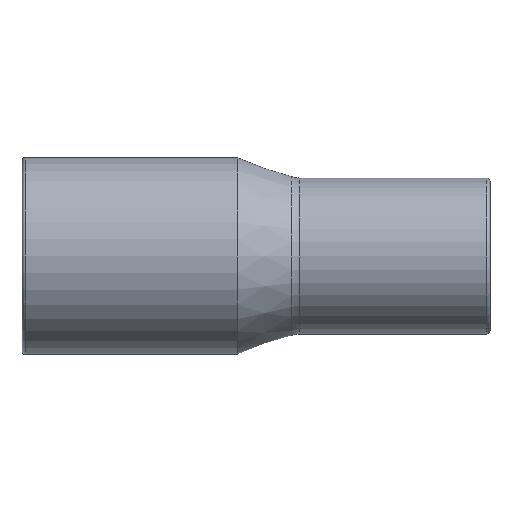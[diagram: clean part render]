
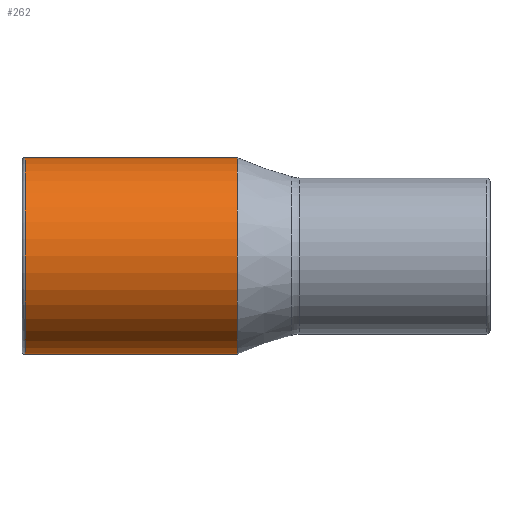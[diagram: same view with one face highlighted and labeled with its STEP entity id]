
A CAD part, front view. The second image highlights one B-rep face of the part: STEP entity #262.
In plain terms, the highlighted cylindrical face has radius 31.5 mm (diameter 63 mm), a full revolution.
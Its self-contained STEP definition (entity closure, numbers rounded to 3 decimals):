
#20=CYLINDRICAL_SURFACE('',#307,31.5);
#44=FACE_BOUND('',#109,.T.);
#67=FACE_OUTER_BOUND('',#108,.T.);
#108=EDGE_LOOP('',(#223));
#109=EDGE_LOOP('',(#224));
#136=CIRCLE('',#306,31.5);
#137=CIRCLE('',#308,31.5);
#159=VERTEX_POINT('',#465);
#160=VERTEX_POINT('',#468);
#182=EDGE_CURVE('',#159,#159,#136,.T.);
#183=EDGE_CURVE('',#160,#160,#137,.T.);
#223=ORIENTED_EDGE('',*,*,#183,.F.);
#224=ORIENTED_EDGE('',*,*,#182,.F.);
#262=ADVANCED_FACE('',(#67,#44),#20,.T.);
#306=AXIS2_PLACEMENT_3D('',#466,#390,#391);
#307=AXIS2_PLACEMENT_3D('',#467,#392,#393);
#308=AXIS2_PLACEMENT_3D('',#469,#394,#395);
#390=DIRECTION('center_axis',(-1.,0.,0.));
#391=DIRECTION('ref_axis',(0.,-1.,0.));
#392=DIRECTION('center_axis',(1.,0.,0.));
#393=DIRECTION('ref_axis',(0.,1.,0.));
#394=DIRECTION('center_axis',(1.,0.,0.));
#395=DIRECTION('ref_axis',(0.,1.,0.));
#465=CARTESIAN_POINT('',(1.,31.5,0.));
#466=CARTESIAN_POINT('Origin',(1.,0.,0.));
#467=CARTESIAN_POINT('Origin',(34.5,0.,0.));
#468=CARTESIAN_POINT('',(69.,31.5,0.));
#469=CARTESIAN_POINT('Origin',(69.,0.,0.));
